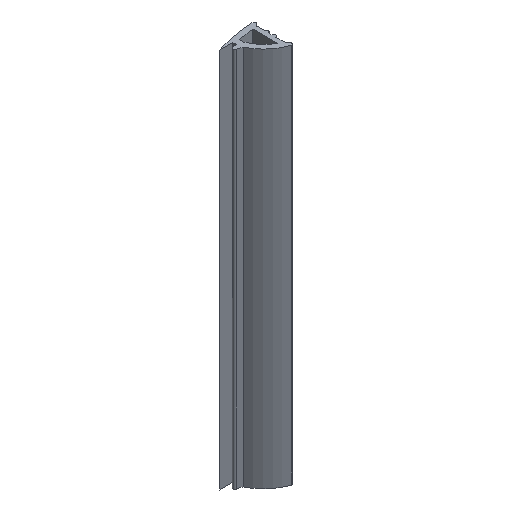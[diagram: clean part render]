
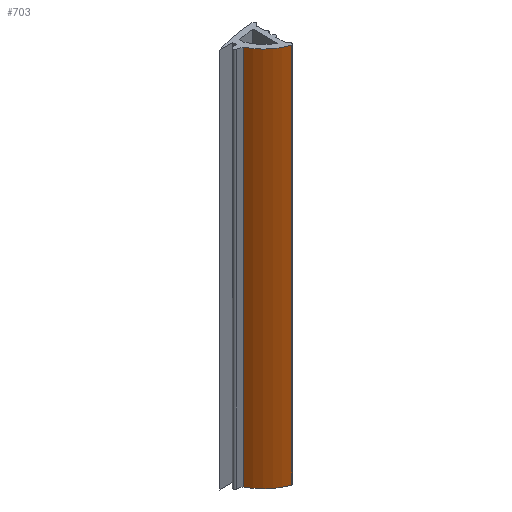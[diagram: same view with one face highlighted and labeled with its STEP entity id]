
A CAD part, isometric view. The second image highlights one B-rep face of the part: STEP entity #703.
In plain terms, the highlighted cylindrical face has radius 11.23 mm (diameter 22.46 mm), a partial arc.
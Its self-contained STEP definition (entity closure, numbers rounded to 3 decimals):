
#9 = DIRECTION ( 'NONE',  ( 0., 0., -1. ) ) ;
#14 = AXIS2_PLACEMENT_3D ( 'NONE', #386, #55, #686 ) ;
#19 = EDGE_CURVE ( 'NONE', #720, #209, #118, .T. ) ;
#55 = DIRECTION ( 'NONE',  ( 0., 0., 1. ) ) ;
#62 = CARTESIAN_POINT ( 'NONE',  ( 1.424, -8.709, 100. ) ) ;
#99 = CARTESIAN_POINT ( 'NONE',  ( 1.424, -8.709, 0. ) ) ;
#103 = DIRECTION ( 'NONE',  ( 0., 0., -1. ) ) ;
#114 = EDGE_CURVE ( 'NONE', #494, #192, #182, .T. ) ;
#118 = CIRCLE ( 'NONE', #14, 11.23 ) ;
#123 = FACE_OUTER_BOUND ( 'NONE', #136, .T. ) ;
#136 = EDGE_LOOP ( 'NONE', ( #627, #326, #708, #731 ) ) ;
#145 = DIRECTION ( 'NONE',  ( 1., 0., 0. ) ) ;
#179 = CYLINDRICAL_SURFACE ( 'NONE', #331, 11.23 ) ;
#182 = CIRCLE ( 'NONE', #693, 11.23 ) ;
#191 = VECTOR ( 'NONE', #620, 1000. ) ;
#192 = VERTEX_POINT ( 'NONE', #99 ) ;
#209 = VERTEX_POINT ( 'NONE', #425 ) ;
#306 = EDGE_CURVE ( 'NONE', #209, #192, #449, .T. ) ;
#326 = ORIENTED_EDGE ( 'NONE', *, *, #306, .F. ) ;
#331 = AXIS2_PLACEMENT_3D ( 'NONE', #524, #9, #636 ) ;
#349 = VECTOR ( 'NONE', #103, 1000. ) ;
#386 = CARTESIAN_POINT ( 'NONE',  ( 4.825, 1.994, 100. ) ) ;
#425 = CARTESIAN_POINT ( 'NONE',  ( 1.424, -8.709, 100. ) ) ;
#442 = DIRECTION ( 'NONE',  ( 0., 0., 1. ) ) ;
#449 = LINE ( 'NONE', #62, #191 ) ;
#494 = VERTEX_POINT ( 'NONE', #638 ) ;
#505 = CARTESIAN_POINT ( 'NONE',  ( 4.825, 1.994, 0. ) ) ;
#524 = CARTESIAN_POINT ( 'NONE',  ( 4.825, 1.994, 100. ) ) ;
#540 = LINE ( 'NONE', #655, #349 ) ;
#603 = EDGE_CURVE ( 'NONE', #720, #494, #540, .T. ) ;
#620 = DIRECTION ( 'NONE',  ( 0., 0., -1. ) ) ;
#627 = ORIENTED_EDGE ( 'NONE', *, *, #114, .T. ) ;
#636 = DIRECTION ( 'NONE',  ( -1., 0., 0. ) ) ;
#638 = CARTESIAN_POINT ( 'NONE',  ( -5.345, -2.769, 0. ) ) ;
#655 = CARTESIAN_POINT ( 'NONE',  ( -5.345, -2.769, 100. ) ) ;
#686 = DIRECTION ( 'NONE',  ( 1., 0., 0. ) ) ;
#693 = AXIS2_PLACEMENT_3D ( 'NONE', #505, #442, #145 ) ;
#703 = ADVANCED_FACE ( 'NONE', ( #123 ), #179, .T. ) ;
#708 = ORIENTED_EDGE ( 'NONE', *, *, #19, .F. ) ;
#720 = VERTEX_POINT ( 'NONE', #741 ) ;
#731 = ORIENTED_EDGE ( 'NONE', *, *, #603, .T. ) ;
#741 = CARTESIAN_POINT ( 'NONE',  ( -5.345, -2.769, 100. ) ) ;
